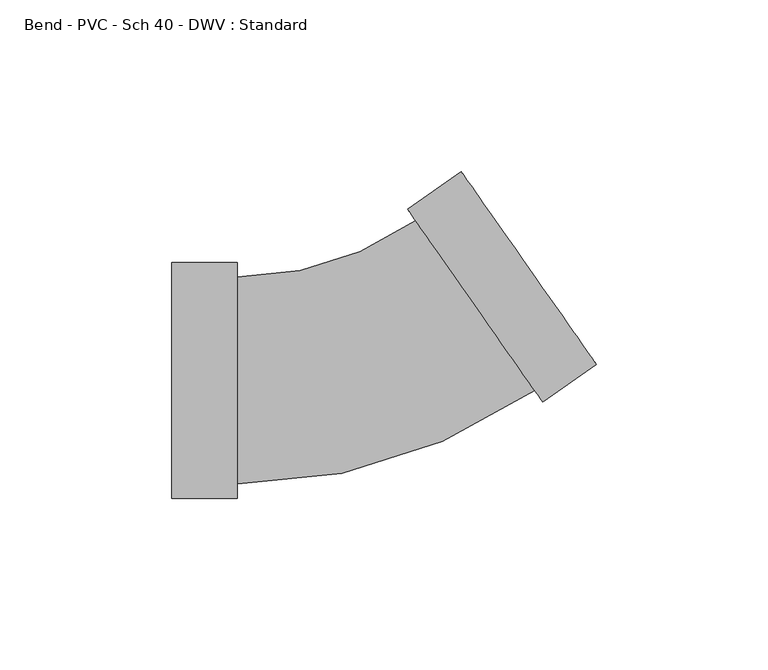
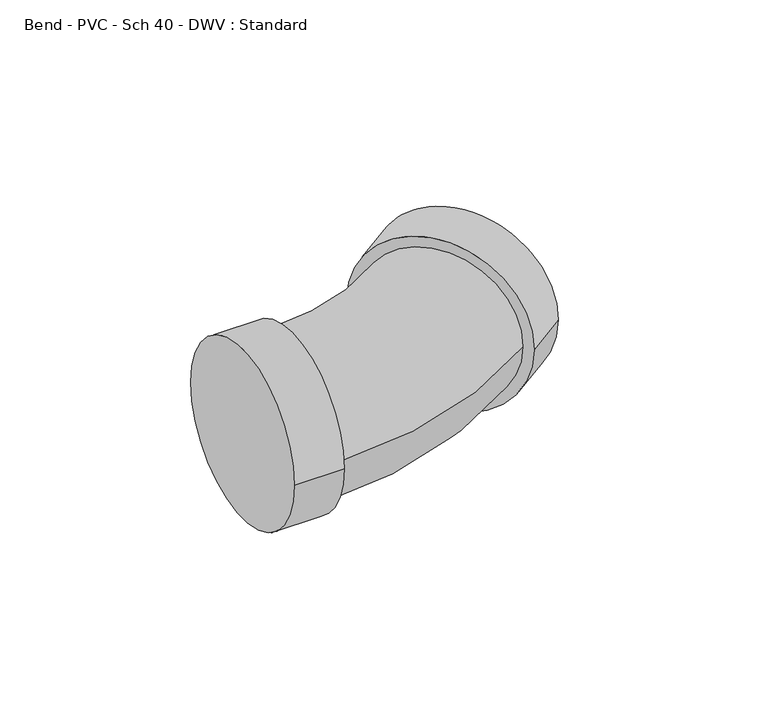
"""IFC4 building model written with IfcOpenShell, lengths in millimetres: pipe fitting geometry, Bend - PVC - Sch 40 - DWV : Standard."""

from ifc_helpers import new_model, si_unit, point, frame, origin, place, context, project, spatial, circle_curve, ellipse_curve, trimmed, source, transform, mapped, element, save
from ifc_brep_helpers import plane_surface, cylinder_surface, revolved_surface, advanced_brep


def bend_pvc_sch_40_dwv_standard_5e50359f(model_context):
    return source(origin(), model_context, "Body", "AdvancedBrep", [
        advanced_brep(
        [(-57.15, -34.3154, 0.0), (-57.15, 34.3154, 0.0), (-38.1, -34.3154, 0.0), (-38.1, 34.3154, 0.0), (-38.1, -30.1625, 0.0), (-38.1, 30.1625, 0.0), (13.9093604, 46.5608859, 0.0), (48.5101819, -2.8545851, 0.0), (50.8921753, -6.2564501, 0.0), (11.527367, 49.962751, 0.0), (66.4970609, 4.6701251, 0.0), (27.1322526, 60.8893262, 0.0)],
        [
            (0, 1, circle_curve(frame((-57.15, 0.0, 0.0), z_axis=(-1.0, 0.0, 0.0), x_axis=(0.0, 1.0, 0.0)), 34.3154)),
            (1, 0, circle_curve(frame((-57.15, 0.0, 0.0), z_axis=(-1.0, 0.0, 0.0), x_axis=(0.0, 1.0, 0.0)), 34.3154)),
            (2, 3, circle_curve(frame((-38.1, 0.0, 0.0), z_axis=(1.0, 0.0, 0.0), x_axis=(0.0, 1.0, 0.0)), 34.3154)),
            (3, 2, circle_curve(frame((-38.1, 0.0, 0.0), z_axis=(1.0, 0.0, 0.0), x_axis=(0.0, 1.0, 0.0)), 34.3154)),
            (4, 5, circle_curve(frame((-38.1, 0.0, 0.0), z_axis=(-1.0, 0.0, 0.0), x_axis=(0.0, 1.0, 0.0)), 30.1625)),
            (5, 4, circle_curve(frame((-38.1, 0.0, 0.0), z_axis=(-1.0, 0.0, 0.0), x_axis=(0.0, 1.0, 0.0)), 30.1625)),
            (0, 2),
            (3, 1),
            (6, 5, circle_curve(frame((-38.1, 120.8385165, 0.0), z_axis=(0.0, 0.0, -1.0), x_axis=(0.0, -1.0, 0.0)), 90.6760165)),
            (4, 7, circle_curve(frame((-38.1, 120.8385165, 0.0), z_axis=(0.0, 0.0, 1.0), x_axis=(0.0, -1.0, 0.0)), 151.0010165)),
            (7, 6, circle_curve(frame((31.2097712, 21.8531504, 0.0), z_axis=(-0.8191540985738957, -0.5735735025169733, 0.0), x_axis=(-0.5735735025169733, 0.8191540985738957, 0.0)), 30.1625)),
            (6, 7, circle_curve(frame((31.2097712, 21.8531504, 0.0), z_axis=(-0.8191540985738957, -0.5735735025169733, 0.0), x_axis=(-0.5735735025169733, 0.8191540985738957, 0.0)), 30.1625)),
            (8, 9, circle_curve(frame((31.2097712, 21.8531504, 0.0), z_axis=(-0.819154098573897, -0.5735735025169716, 0.0), x_axis=(-0.5735735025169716, 0.819154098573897, 0.0)), 34.3154)),
            (9, 8, circle_curve(frame((31.2097712, 21.8531504, 0.0), z_axis=(-0.819154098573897, -0.5735735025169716, 0.0), x_axis=(-0.5735735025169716, 0.819154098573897, 0.0)), 34.3154)),
            (10, 11, circle_curve(frame((46.8146567, 32.7797257, 0.0), z_axis=(0.819154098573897, 0.5735735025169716, 0.0), x_axis=(-0.5735735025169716, 0.819154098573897, 0.0)), 34.3154)),
            (11, 10, circle_curve(frame((46.8146567, 32.7797257, 0.0), z_axis=(0.819154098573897, 0.5735735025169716, 0.0), x_axis=(-0.5735735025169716, 0.819154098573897, 0.0)), 34.3154)),
            (8, 10),
            (11, 9),
        ],
        [
            plane_surface(frame((-57.15, 0.0, 0.0), z_axis=(-1.0, 0.0, 0.0), x_axis=(0.0, 0.0, 1.0))),
            plane_surface(frame((-38.1, 0.0, 0.0), z_axis=(1.0, 0.0, 0.0), x_axis=(0.0, 0.0, 1.0))),
            cylinder_surface(frame((-57.15, 0.0, 0.0), z_axis=(-1.0, 0.0, 0.0), x_axis=(0.0, 1.0, 0.0)), 34.3154),
            revolved_surface(trimmed(ellipse_curve(frame((-38.1, 0.0, 0.0), z_axis=(-1.0, 0.0, 0.0), x_axis=(0.0, 1.0, 0.0)), 30.1625, 30.1625), [point((-38.1, -30.1625, 0.0))], [point((-38.1, 30.1625, 0.0))], True, "CARTESIAN"), (-38.1, 120.8385165, 0.0), (0.0, 0.0, 1.0)),
            revolved_surface(trimmed(ellipse_curve(frame((-38.1, 0.0, 0.0), z_axis=(-1.0, 0.0, 0.0), x_axis=(0.0, 1.0, 0.0)), 30.1625, 30.1625), [point((-38.1, 30.1625, 0.0))], [point((-38.1, -30.1625, 0.0))], True, "CARTESIAN"), (-38.1, 120.8385165, 0.0), (0.0, 0.0, 1.0)),
            plane_surface(frame((31.2097712, 21.8531504, 0.0), z_axis=(-0.819154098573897, -0.5735735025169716, 0.0), x_axis=(0.0, 0.0, 1.0))),
            plane_surface(frame((46.8146567, 32.7797257, 0.0), z_axis=(0.819154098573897, 0.5735735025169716, 0.0), x_axis=(0.0, 0.0, 1.0))),
            cylinder_surface(frame((31.2097712, 21.8531504, 0.0), z_axis=(-0.819154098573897, -0.5735735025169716, 0.0), x_axis=(-0.5735735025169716, 0.819154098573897, 0.0)), 34.3154),
        ],
        [
            (0, [[1, 2]]),
            (1, [[3, 4], [5, 6]]),
            (2, [[-1, 7, -4, 8]]),
            (2, [[-2, -8, -3, -7]]),
            (3, [[9, -5, 10, 11]]),
            (4, [[-9, 12, -10, -6]]),
            (5, [[13, 14], [-11, -12]]),
            (6, [[15, 16]]),
            (7, [[-13, 17, -16, 18]]),
            (7, [[-14, -18, -15, -17]]),
        ],
    ),
    ])


if __name__ == "__main__":
    model = new_model("IFC4")
    model_context = context("Model", 3, world=origin())
    ifc_project = project(units=[si_unit("LENGTHUNIT", "METRE", prefix="MILLI")], contexts=[model_context])
    site = spatial("IfcSite", under=ifc_project)
    building = spatial("IfcBuilding", under=site)
    placement = place(None, origin())
    bend_pvc_sch_40_dwv_standard_shape = bend_pvc_sch_40_dwv_standard_5e50359f(model_context)
    element("IfcPipeFitting", 1, ObjectType="Bend - PVC - Sch 40 - DWV : Standard", at=placement, inside=building, context=model_context, shape_type="MappedRepresentation", body=[
        mapped(bend_pvc_sch_40_dwv_standard_shape, transform((0.0, 0.0, 0.0), x_axis=(1.0, 0.0, 0.0), y_axis=(0.0, 1.0, 0.0), z_axis=(0.0, 0.0, 1.0))),
    ])
    save(model, "model.ifc")
